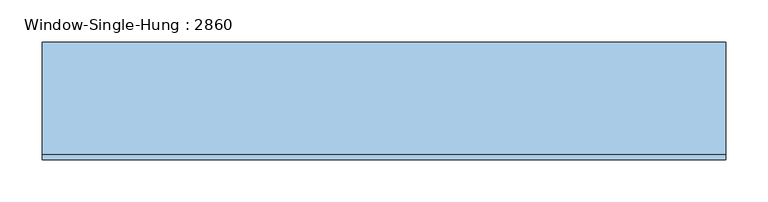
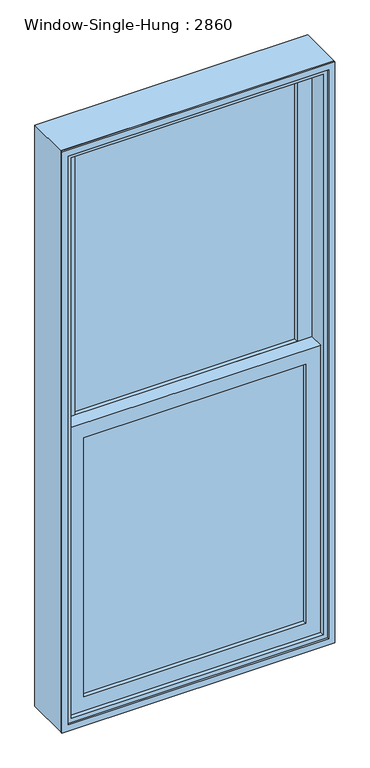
"""IFC4 building model written with IfcOpenShell, lengths in millimetres: window geometry, Window-Single-Hung : 2860."""

from ifc_helpers import new_model, si_unit, frame, origin, place, context, project, spatial, polyline, outline, extrude, source, transform, mapped, element, save


def window_single_hung_2860_a2395dbf(model_context):
    return source(origin(), model_context, "Body", "SweptSolid", [
        extrude(outline(polyline([(330.2, -9.525), (330.2, -15.875), (-330.2, -15.875), (-330.2, -9.525), (330.2, -9.525)])), frame((0.0, 0.0, 990.6), z_axis=(0.0, 0.0, 1.0), x_axis=(1.0, 0.0, 0.0)), (0.0, 0.0, 1.0), 815.975),
        extrude(outline(polyline([(-330.2, -22.225), (330.2, -22.225), (330.2, -28.575), (-330.2, -28.575), (-330.2, -22.225)])), frame((0.0, 0.0, 990.6), z_axis=(0.0, 0.0, 1.0), x_axis=(1.0, 0.0, 0.0)), (0.0, 0.0, 1.0), 815.975),
        extrude(outline(polyline([(330.2, 34.925), (330.2, 28.575), (-330.2, 28.575), (-330.2, 34.925), (330.2, 34.925)])), frame((0.0, 0.0, 1851.025), z_axis=(0.0, 0.0, 1.0), x_axis=(1.0, 0.0, 0.0)), (0.0, 0.0, 1.0), 815.975),
        extrude(outline(polyline([(-330.2, 22.225), (330.2, 22.225), (330.2, 15.875), (-330.2, 15.875), (-330.2, 22.225)])), frame((0.0, 0.0, 1851.025), z_axis=(0.0, 0.0, 1.0), x_axis=(1.0, 0.0, 0.0)), (0.0, 0.0, 1.0), 815.975),
        extrude(outline(polyline([(1851.025, -374.65), (946.15, -374.65), (946.15, 374.65), (1851.025, 374.65), (1851.025, -374.65)]), holes=[polyline([(1806.575, 330.2), (990.6, 330.2), (990.6, -330.2), (1806.575, -330.2), (1806.575, 330.2)])]), frame((0.0, -41.275, 0.0), z_axis=(0.0, 1.0, 0.0), x_axis=(0.0, 0.0, 1.0)), (0.0, 0.0, 1.0), 44.45),
        extrude(outline(polyline([(2711.45, -374.65), (1806.575, -374.65), (1806.575, 374.65), (2711.45, 374.65), (2711.45, -374.65)]), holes=[polyline([(2667.0, 330.2), (1851.025, 330.2), (1851.025, -330.2), (2667.0, -330.2), (2667.0, 330.2)])]), frame((0.0, 3.175, 0.0), z_axis=(0.0, 1.0, 0.0), x_axis=(0.0, 0.0, 1.0)), (0.0, 0.0, 1.0), 44.45),
        extrude(outline(polyline([(2743.2, -406.4), (914.4, -406.4), (914.4, 406.4), (2743.2, 406.4), (2743.2, -406.4)]), holes=[polyline([(2711.45, 374.65), (946.15, 374.65), (946.15, -374.65), (2711.45, -374.65), (2711.45, 374.65)])]), frame((0.0, -53.975, 0.0), z_axis=(0.0, 1.0, 0.0), x_axis=(0.0, 0.0, 1.0)), (0.0, 0.0, 1.0), 133.35),
        extrude(outline(polyline([(2743.2, 406.4), (2743.2, -406.4), (914.4, -406.4), (914.4, 406.4), (2743.2, 406.4)]), holes=[polyline([(2724.15, 387.35), (933.45, 387.35), (933.45, -387.35), (2724.15, -387.35), (2724.15, 387.35)])]), frame((0.0, -60.325, 0.0), z_axis=(0.0, 1.0, 0.0), x_axis=(0.0, 0.0, 1.0)), (0.0, 0.0, 1.0), 6.35),
    ])


if __name__ == "__main__":
    model = new_model("IFC4")
    model_context = context("Model", 3, world=origin())
    ifc_project = project(units=[si_unit("LENGTHUNIT", "METRE", prefix="MILLI")], contexts=[model_context])
    site = spatial("IfcSite", under=ifc_project)
    building = spatial("IfcBuilding", under=site)
    placement = place(None, origin())
    window_single_hung_2860_shape = window_single_hung_2860_a2395dbf(model_context)
    element("IfcWindow", 1, ObjectType="Window-Single-Hung : 2860", at=placement, inside=building, context=model_context, shape_type="MappedRepresentation", body=[
        mapped(window_single_hung_2860_shape, transform((0.0, 0.0, 0.0), x_axis=(1.0, 0.0, 0.0), y_axis=(0.0, 1.0, 0.0), z_axis=(0.0, 0.0, 1.0))),
    ])
    save(model, "model.ifc")
